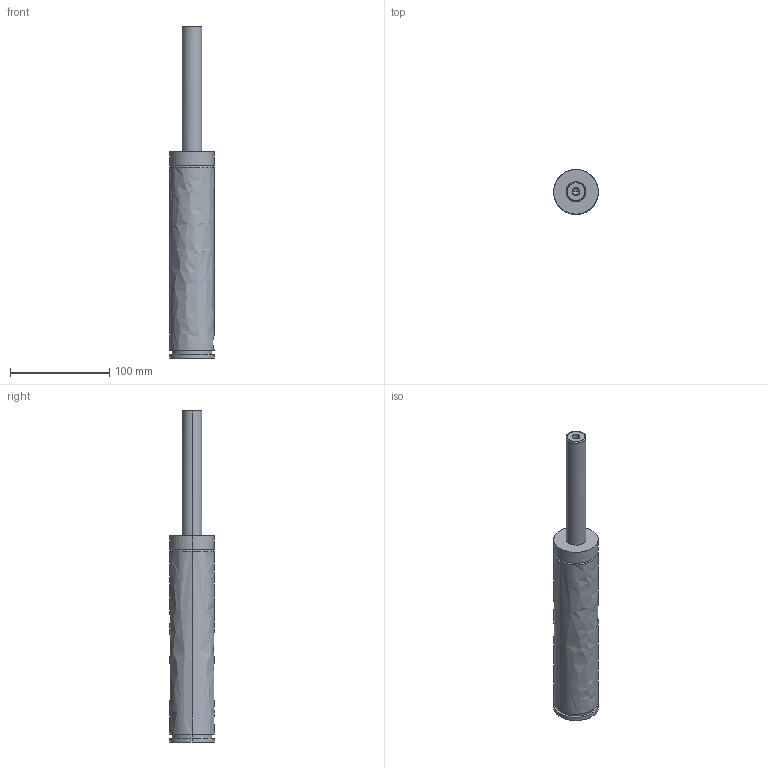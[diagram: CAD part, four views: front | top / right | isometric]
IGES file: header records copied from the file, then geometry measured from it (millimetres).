
Global section: file name: E:\UnigraphicsGraphicData\MISUMI_PRESS-PARTS\IGES\3d_gse45-125_03884_r00.igs; native system: NX V5.0; preprocessor: UGS NX IGES V5.0; author: MISUMI; date: 20110105.160757; units: millimetre
Bounding box: 45 x 45 x 335 mm (x, y, z)
Surface area: 42663.2 mm2 (no closed solid volume)
Topology: 0 solids, 0 shells, 57 faces, 450 edges, 448 vertices
Faces by surface type: bspline 57
